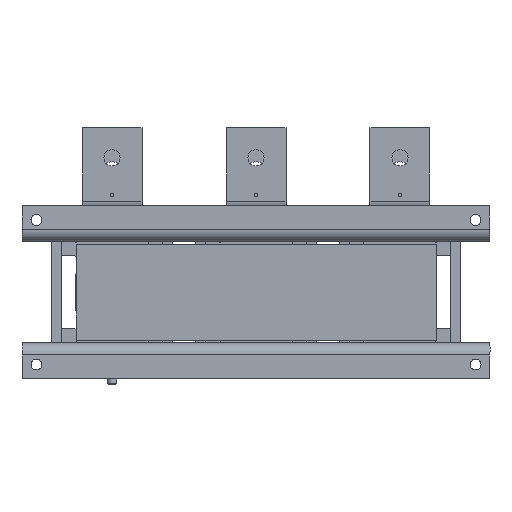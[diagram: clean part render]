
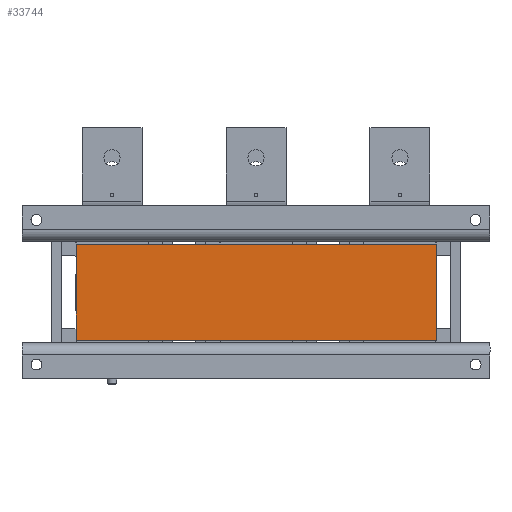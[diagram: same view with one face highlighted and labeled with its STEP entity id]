
A CAD part, front view. The second image highlights one B-rep face of the part: STEP entity #33744.
In plain terms, the highlighted planar face has unit normal (0, -1, 0).
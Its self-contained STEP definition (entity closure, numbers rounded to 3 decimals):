
#735=LINE('',#48279,#4037);
#1010=LINE('',#49243,#4312);
#1011=LINE('',#49244,#4313);
#1012=LINE('',#49245,#4314);
#4037=VECTOR('',#39062,10.);
#4312=VECTOR('',#39841,10.);
#4313=VECTOR('',#39842,10.);
#4314=VECTOR('',#39843,10.);
#7350=PLANE('',#35938);
#9199=FACE_OUTER_BOUND('',#11206,.T.);
#11206=EDGE_LOOP('',(#23290,#23291,#23292,#23293));
#14464=VERTEX_POINT('',#48276);
#14465=VERTEX_POINT('',#48278);
#14793=VERTEX_POINT('',#49241);
#14794=VERTEX_POINT('',#49242);
#17705=EDGE_CURVE('',#14465,#14464,#735,.T.);
#18134=EDGE_CURVE('',#14793,#14794,#1010,.T.);
#18135=EDGE_CURVE('',#14465,#14793,#1011,.T.);
#18136=EDGE_CURVE('',#14794,#14464,#1012,.T.);
#23290=ORIENTED_EDGE('',*,*,#18134,.F.);
#23291=ORIENTED_EDGE('',*,*,#18135,.F.);
#23292=ORIENTED_EDGE('',*,*,#17705,.T.);
#23293=ORIENTED_EDGE('',*,*,#18136,.F.);
#33744=ADVANCED_FACE('',(#9199),#7350,.T.);
#35938=AXIS2_PLACEMENT_3D('',#49240,#39839,#39840);
#39062=DIRECTION('',(0.,0.,1.));
#39839=DIRECTION('center_axis',(0.,-1.,0.));
#39840=DIRECTION('ref_axis',(1.,0.,0.));
#39841=DIRECTION('',(0.,0.,1.));
#39842=DIRECTION('',(-1.,0.,0.));
#39843=DIRECTION('',(1.,0.,0.));
#48276=CARTESIAN_POINT('',(150.,-210.57,40.));
#48278=CARTESIAN_POINT('',(150.,-210.57,-40.));
#48279=CARTESIAN_POINT('',(150.,-210.57,0.));
#49240=CARTESIAN_POINT('Origin',(-150.,-210.57,0.));
#49241=CARTESIAN_POINT('',(-150.,-210.57,-40.));
#49242=CARTESIAN_POINT('',(-150.,-210.57,40.));
#49243=CARTESIAN_POINT('',(-150.,-210.57,0.));
#49244=CARTESIAN_POINT('',(-150.,-210.57,-40.));
#49245=CARTESIAN_POINT('',(-150.,-210.57,40.));
